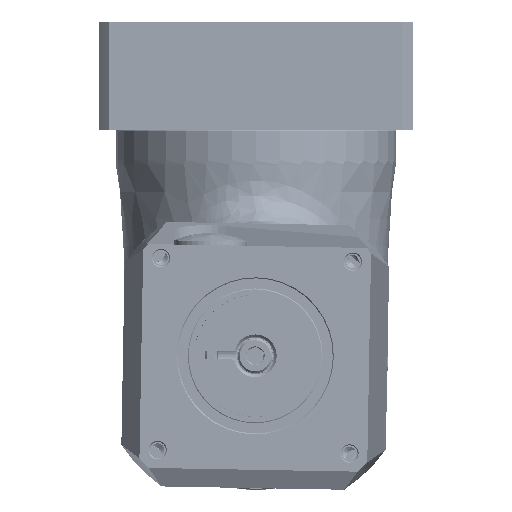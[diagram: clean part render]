
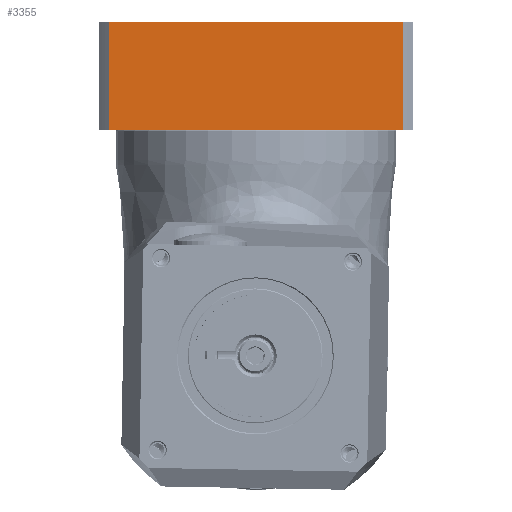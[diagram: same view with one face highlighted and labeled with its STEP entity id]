
A CAD part, front view. The second image highlights one B-rep face of the part: STEP entity #3355.
In plain terms, the highlighted planar face has unit normal (0, -1, 0) as drawn and (0, 1, 0) by its records, which use the part's own axes.
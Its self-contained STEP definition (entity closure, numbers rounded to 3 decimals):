
#925 = DIRECTION ( 'NONE',  ( 0., -1., 0. ) ) ;
#2968 = ORIENTED_EDGE ( 'NONE', *, *, #60458, .F. ) ;
#3355 = ADVANCED_FACE ( 'NONE', ( #57453 ), #62949, .F. ) ;
#3910 = LINE ( 'NONE', #18362, #51855 ) ;
#5947 = EDGE_CURVE ( 'NONE', #52874, #17022, #39477, .T. ) ;
#10669 = VERTEX_POINT ( 'NONE', #28921 ) ;
#12067 = EDGE_CURVE ( 'NONE', #10669, #52874, #3910, .T. ) ;
#12287 = ORIENTED_EDGE ( 'NONE', *, *, #49755, .T. ) ;
#17022 = VERTEX_POINT ( 'NONE', #35298 ) ;
#18362 = CARTESIAN_POINT ( 'NONE',  ( 36.212, 38.7, 0. ) ) ;
#19173 = LINE ( 'NONE', #19866, #51926 ) ;
#19866 = CARTESIAN_POINT ( 'NONE',  ( -38.7, 38.7, 0. ) ) ;
#28919 = VERTEX_POINT ( 'NONE', #29784 ) ;
#28921 = CARTESIAN_POINT ( 'NONE',  ( 36.212, 38.7, 0. ) ) ;
#29175 = CARTESIAN_POINT ( 'NONE',  ( -38.7, 38.7, 26.5 ) ) ;
#29784 = CARTESIAN_POINT ( 'NONE',  ( -36.212, 38.7, 0. ) ) ;
#35214 = DIRECTION ( 'NONE',  ( 0., 0., -1. ) ) ;
#35298 = CARTESIAN_POINT ( 'NONE',  ( -36.212, 38.7, 26.5 ) ) ;
#35699 = DIRECTION ( 'NONE',  ( -1., 0., 0. ) ) ;
#39023 = DIRECTION ( 'NONE',  ( 0., 0., 1. ) ) ;
#39034 = EDGE_LOOP ( 'NONE', ( #44611, #12287, #2968, #52843 ) ) ;
#39477 = LINE ( 'NONE', #29175, #65785 ) ;
#44611 = ORIENTED_EDGE ( 'NONE', *, *, #12067, .F. ) ;
#47124 = AXIS2_PLACEMENT_3D ( 'NONE', #57115, #925, #52940 ) ;
#47255 = LINE ( 'NONE', #57270, #57969 ) ;
#49755 = EDGE_CURVE ( 'NONE', #10669, #28919, #19173, .T. ) ;
#50023 = CARTESIAN_POINT ( 'NONE',  ( 36.212, 38.7, 26.5 ) ) ;
#51855 = VECTOR ( 'NONE', #39023, 1000. ) ;
#51926 = VECTOR ( 'NONE', #35699, 1000. ) ;
#52843 = ORIENTED_EDGE ( 'NONE', *, *, #5947, .F. ) ;
#52874 = VERTEX_POINT ( 'NONE', #50023 ) ;
#52940 = DIRECTION ( 'NONE',  ( 0., 0., -1. ) ) ;
#57115 = CARTESIAN_POINT ( 'NONE',  ( -38.7, 38.7, 26.5 ) ) ;
#57270 = CARTESIAN_POINT ( 'NONE',  ( -36.212, 38.7, 0. ) ) ;
#57453 = FACE_OUTER_BOUND ( 'NONE', #39034, .T. ) ;
#57969 = VECTOR ( 'NONE', #35214, 1000. ) ;
#60458 = EDGE_CURVE ( 'NONE', #17022, #28919, #47255, .T. ) ;
#62949 = PLANE ( 'NONE',  #47124 ) ;
#65785 = VECTOR ( 'NONE', #66371, 1000. ) ;
#66371 = DIRECTION ( 'NONE',  ( -1., 0., 0. ) ) ;
